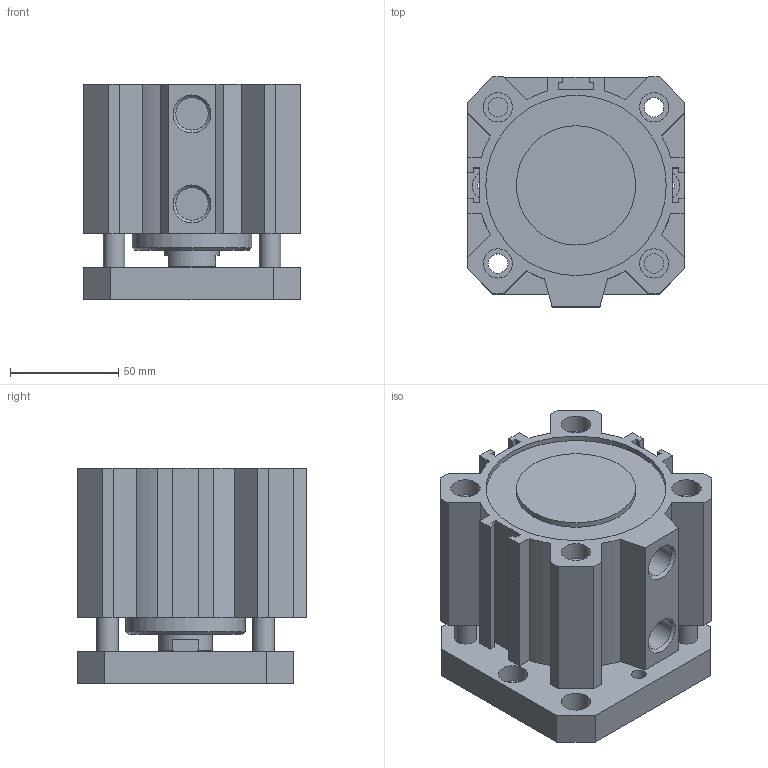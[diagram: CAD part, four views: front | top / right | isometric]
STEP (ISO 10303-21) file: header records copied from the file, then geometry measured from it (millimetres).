
FILE_DESCRIPTION(/* description */ (''),/* implementation_level */ '2;1');
FILE_NAME(/* name */ 'I:\Area Tecnica\Disegni\VARIE-3D\Componenti\1500\Ø80\15##_80_####_#\1501_80_0025_AR.stp',/* time_stamp */ '2016-08-24T14:12:02+02:00',/* author */ ('Maniean1'),/* organization */ ('Pneumax S.p.A.'),/* preprocessor_version */ 'ST-DEVELOPER v15.2',/* originating_system */ 'Autodesk Inventor 2014',/* authorisation */ '');
FILE_SCHEMA (('AUTOMOTIVE_DESIGN { 1 0 10303 214 3 1 1 }'));
Length unit declared in the file: millimetre
Products named in the file (3): C_1501_80_0025_AR; S_1501_80_0025_AR; 1501_80_0025_AR
Bounding box: 100 x 106 x 99.5 mm (x, y, z)
Volume: 601660.7 mm3; surface area: 136684.4 mm2
Topology: 2 solids, 2 shells, 139 faces, 341 edges, 228 vertices
Faces by surface type: plane 94, cylinder 40, cone 5
Full cylindrical faces by diameter (mm): 6.647 x2, 8.5 x2, 9 x4, 10 x4, 13.5 x10, 14.95 x2, 25 x2, 55 x2, 80 x2, 83.2 x2
Entity records: 4083 total; most frequent: CARTESIAN_POINT 674, DIRECTION 672, ORIENTED_EDGE 600, EDGE_CURVE 300, AXIS2_PLACEMENT_3D 232, VERTEX_POINT 222, EDGE_LOOP 216, LINE 208
